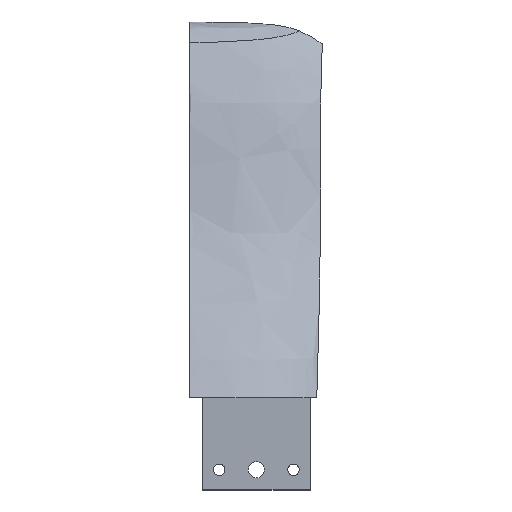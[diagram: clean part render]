
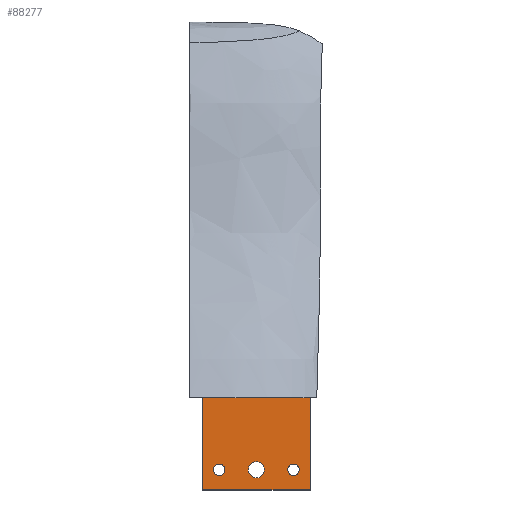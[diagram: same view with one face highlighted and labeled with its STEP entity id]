
A CAD part, top view. The second image highlights one B-rep face of the part: STEP entity #88277.
In plain terms, the highlighted planar face has unit normal (0, 0, 1).
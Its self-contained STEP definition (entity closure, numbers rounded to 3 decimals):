
#87328 = PLANE('',#87329);
#87329 = AXIS2_PLACEMENT_3D('',#87330,#87331,#87332);
#87330 = CARTESIAN_POINT('',(47.24,-59.4,19.01));
#87331 = DIRECTION('',(1.,0.,-0.));
#87332 = DIRECTION('',(0.,0.,1.));
#87667 = PLANE('',#87668);
#87668 = AXIS2_PLACEMENT_3D('',#87669,#87670,#87671);
#87669 = CARTESIAN_POINT('',(63.24,-59.4,19.01));
#87670 = DIRECTION('',(1.,0.,-0.));
#87671 = DIRECTION('',(0.,0.,1.));
#87876 = PLANE('',#87877);
#87877 = AXIS2_PLACEMENT_3D('',#87878,#87879,#87880);
#87878 = CARTESIAN_POINT('',(47.24,-59.4,19.01));
#87879 = DIRECTION('',(-0.,1.,0.));
#87880 = DIRECTION('',(0.,0.,1.));
#88096 = PLANE('',#88097);
#88097 = AXIS2_PLACEMENT_3D('',#88098,#88099,#88100);
#88098 = CARTESIAN_POINT('',(47.24,-73.4,19.));
#88099 = DIRECTION('',(-0.,1.,0.));
#88100 = DIRECTION('',(0.,0.,1.));
#88149 = CYLINDRICAL_SURFACE('',#88150,0.85);
#88150 = AXIS2_PLACEMENT_3D('',#88151,#88152,#88153);
#88151 = CARTESIAN_POINT('',(49.74,-70.4,18.));
#88152 = DIRECTION('',(0.,0.,1.));
#88153 = DIRECTION('',(1.,0.,-0.));
#88180 = CYLINDRICAL_SURFACE('',#88181,1.2);
#88181 = AXIS2_PLACEMENT_3D('',#88182,#88183,#88184);
#88182 = CARTESIAN_POINT('',(55.24,-70.4,18.));
#88183 = DIRECTION('',(0.,0.,1.));
#88184 = DIRECTION('',(1.,0.,-0.));
#88211 = CYLINDRICAL_SURFACE('',#88212,0.85);
#88212 = AXIS2_PLACEMENT_3D('',#88213,#88214,#88215);
#88213 = CARTESIAN_POINT('',(60.74,-70.4,18.));
#88214 = DIRECTION('',(0.,0.,1.));
#88215 = DIRECTION('',(1.,0.,-0.));
#88226 = EDGE_CURVE('',#88227,#88227,#88229,.T.);
#88227 = VERTEX_POINT('',#88228);
#88228 = CARTESIAN_POINT('',(61.59,-70.4,20.));
#88229 = SURFACE_CURVE('',#88230,(#88235,#88242),.PCURVE_S1.);
#88230 = CIRCLE('',#88231,0.85);
#88231 = AXIS2_PLACEMENT_3D('',#88232,#88233,#88234);
#88232 = CARTESIAN_POINT('',(60.74,-70.4,20.));
#88233 = DIRECTION('',(0.,0.,1.));
#88234 = DIRECTION('',(1.,0.,-0.));
#88235 = PCURVE('',#88211,#88236);
#88236 = DEFINITIONAL_REPRESENTATION('',(#88237),#88241);
#88237 = LINE('',#88238,#88239);
#88238 = CARTESIAN_POINT('',(0.,2.));
#88239 = VECTOR('',#88240,1.);
#88240 = DIRECTION('',(1.,0.));
#88241 = ( GEOMETRIC_REPRESENTATION_CONTEXT(2) 
PARAMETRIC_REPRESENTATION_CONTEXT() REPRESENTATION_CONTEXT('2D SPACE',''
  ) );
#88242 = PCURVE('',#88243,#88248);
#88243 = PLANE('',#88244);
#88244 = AXIS2_PLACEMENT_3D('',#88245,#88246,#88247);
#88245 = CARTESIAN_POINT('',(47.24,-73.4,20.));
#88246 = DIRECTION('',(0.,0.,1.));
#88247 = DIRECTION('',(1.,0.,-0.));
#88248 = DEFINITIONAL_REPRESENTATION('',(#88249),#88253);
#88249 = CIRCLE('',#88250,0.85);
#88250 = AXIS2_PLACEMENT_2D('',#88251,#88252);
#88251 = CARTESIAN_POINT('',(13.5,3.));
#88252 = DIRECTION('',(1.,0.));
#88253 = ( GEOMETRIC_REPRESENTATION_CONTEXT(2) 
PARAMETRIC_REPRESENTATION_CONTEXT() REPRESENTATION_CONTEXT('2D SPACE',''
  ) );
#88277 = ADVANCED_FACE('',(#88278,#88370,#88396,#88422),#88243,.T.);
#88278 = FACE_BOUND('',#88279,.T.);
#88279 = EDGE_LOOP('',(#88280,#88305,#88328,#88351));
#88280 = ORIENTED_EDGE('',*,*,#88281,.F.);
#88281 = EDGE_CURVE('',#88282,#88284,#88286,.T.);
#88282 = VERTEX_POINT('',#88283);
#88283 = CARTESIAN_POINT('',(47.24,-73.4,20.));
#88284 = VERTEX_POINT('',#88285);
#88285 = CARTESIAN_POINT('',(47.24,-59.4,20.));
#88286 = SURFACE_CURVE('',#88287,(#88291,#88298),.PCURVE_S1.);
#88287 = LINE('',#88288,#88289);
#88288 = CARTESIAN_POINT('',(47.24,-73.4,20.));
#88289 = VECTOR('',#88290,1.);
#88290 = DIRECTION('',(-0.,1.,0.));
#88291 = PCURVE('',#88243,#88292);
#88292 = DEFINITIONAL_REPRESENTATION('',(#88293),#88297);
#88293 = LINE('',#88294,#88295);
#88294 = CARTESIAN_POINT('',(0.,0.));
#88295 = VECTOR('',#88296,1.);
#88296 = DIRECTION('',(0.,1.));
#88297 = ( GEOMETRIC_REPRESENTATION_CONTEXT(2) 
PARAMETRIC_REPRESENTATION_CONTEXT() REPRESENTATION_CONTEXT('2D SPACE',''
  ) );
#88298 = PCURVE('',#87328,#88299);
#88299 = DEFINITIONAL_REPRESENTATION('',(#88300),#88304);
#88300 = LINE('',#88301,#88302);
#88301 = CARTESIAN_POINT('',(0.99,14.));
#88302 = VECTOR('',#88303,1.);
#88303 = DIRECTION('',(0.,-1.));
#88304 = ( GEOMETRIC_REPRESENTATION_CONTEXT(2) 
PARAMETRIC_REPRESENTATION_CONTEXT() REPRESENTATION_CONTEXT('2D SPACE',''
  ) );
#88305 = ORIENTED_EDGE('',*,*,#88306,.T.);
#88306 = EDGE_CURVE('',#88282,#88307,#88309,.T.);
#88307 = VERTEX_POINT('',#88308);
#88308 = CARTESIAN_POINT('',(63.24,-73.4,20.));
#88309 = SURFACE_CURVE('',#88310,(#88314,#88321),.PCURVE_S1.);
#88310 = LINE('',#88311,#88312);
#88311 = CARTESIAN_POINT('',(47.24,-73.4,20.));
#88312 = VECTOR('',#88313,1.);
#88313 = DIRECTION('',(1.,0.,-0.));
#88314 = PCURVE('',#88243,#88315);
#88315 = DEFINITIONAL_REPRESENTATION('',(#88316),#88320);
#88316 = LINE('',#88317,#88318);
#88317 = CARTESIAN_POINT('',(0.,0.));
#88318 = VECTOR('',#88319,1.);
#88319 = DIRECTION('',(1.,0.));
#88320 = ( GEOMETRIC_REPRESENTATION_CONTEXT(2) 
PARAMETRIC_REPRESENTATION_CONTEXT() REPRESENTATION_CONTEXT('2D SPACE',''
  ) );
#88321 = PCURVE('',#88096,#88322);
#88322 = DEFINITIONAL_REPRESENTATION('',(#88323),#88327);
#88323 = LINE('',#88324,#88325);
#88324 = CARTESIAN_POINT('',(1.,0.));
#88325 = VECTOR('',#88326,1.);
#88326 = DIRECTION('',(0.,1.));
#88327 = ( GEOMETRIC_REPRESENTATION_CONTEXT(2) 
PARAMETRIC_REPRESENTATION_CONTEXT() REPRESENTATION_CONTEXT('2D SPACE',''
  ) );
#88328 = ORIENTED_EDGE('',*,*,#88329,.T.);
#88329 = EDGE_CURVE('',#88307,#88330,#88332,.T.);
#88330 = VERTEX_POINT('',#88331);
#88331 = CARTESIAN_POINT('',(63.24,-59.4,20.));
#88332 = SURFACE_CURVE('',#88333,(#88337,#88344),.PCURVE_S1.);
#88333 = LINE('',#88334,#88335);
#88334 = CARTESIAN_POINT('',(63.24,-73.4,20.));
#88335 = VECTOR('',#88336,1.);
#88336 = DIRECTION('',(-0.,1.,0.));
#88337 = PCURVE('',#88243,#88338);
#88338 = DEFINITIONAL_REPRESENTATION('',(#88339),#88343);
#88339 = LINE('',#88340,#88341);
#88340 = CARTESIAN_POINT('',(16.,0.));
#88341 = VECTOR('',#88342,1.);
#88342 = DIRECTION('',(0.,1.));
#88343 = ( GEOMETRIC_REPRESENTATION_CONTEXT(2) 
PARAMETRIC_REPRESENTATION_CONTEXT() REPRESENTATION_CONTEXT('2D SPACE',''
  ) );
#88344 = PCURVE('',#87667,#88345);
#88345 = DEFINITIONAL_REPRESENTATION('',(#88346),#88350);
#88346 = LINE('',#88347,#88348);
#88347 = CARTESIAN_POINT('',(0.99,14.));
#88348 = VECTOR('',#88349,1.);
#88349 = DIRECTION('',(0.,-1.));
#88350 = ( GEOMETRIC_REPRESENTATION_CONTEXT(2) 
PARAMETRIC_REPRESENTATION_CONTEXT() REPRESENTATION_CONTEXT('2D SPACE',''
  ) );
#88351 = ORIENTED_EDGE('',*,*,#88352,.F.);
#88352 = EDGE_CURVE('',#88284,#88330,#88353,.T.);
#88353 = SURFACE_CURVE('',#88354,(#88358,#88364),.PCURVE_S1.);
#88354 = LINE('',#88355,#88356);
#88355 = CARTESIAN_POINT('',(47.24,-59.4,20.));
#88356 = VECTOR('',#88357,1.);
#88357 = DIRECTION('',(1.,0.,-0.));
#88358 = PCURVE('',#88243,#88359);
#88359 = DEFINITIONAL_REPRESENTATION('',(#88360),#88363);
#88360 = B_SPLINE_CURVE_WITH_KNOTS('',1,(#88361,#88362),.UNSPECIFIED.,
  .F.,.F.,(2,2),(0.,16.),.PIECEWISE_BEZIER_KNOTS.);
#88361 = CARTESIAN_POINT('',(0.,14.));
#88362 = CARTESIAN_POINT('',(16.,14.));
#88363 = ( GEOMETRIC_REPRESENTATION_CONTEXT(2) 
PARAMETRIC_REPRESENTATION_CONTEXT() REPRESENTATION_CONTEXT('2D SPACE',''
  ) );
#88364 = PCURVE('',#87876,#88365);
#88365 = DEFINITIONAL_REPRESENTATION('',(#88366),#88369);
#88366 = B_SPLINE_CURVE_WITH_KNOTS('',1,(#88367,#88368),.UNSPECIFIED.,
  .F.,.F.,(2,2),(0.,16.),.PIECEWISE_BEZIER_KNOTS.);
#88367 = CARTESIAN_POINT('',(0.99,0.));
#88368 = CARTESIAN_POINT('',(0.99,16.));
#88369 = ( GEOMETRIC_REPRESENTATION_CONTEXT(2) 
PARAMETRIC_REPRESENTATION_CONTEXT() REPRESENTATION_CONTEXT('2D SPACE',''
  ) );
#88370 = FACE_BOUND('',#88371,.T.);
#88371 = EDGE_LOOP('',(#88372));
#88372 = ORIENTED_EDGE('',*,*,#88373,.F.);
#88373 = EDGE_CURVE('',#88374,#88374,#88376,.T.);
#88374 = VERTEX_POINT('',#88375);
#88375 = CARTESIAN_POINT('',(50.59,-70.4,20.));
#88376 = SURFACE_CURVE('',#88377,(#88382,#88389),.PCURVE_S1.);
#88377 = CIRCLE('',#88378,0.85);
#88378 = AXIS2_PLACEMENT_3D('',#88379,#88380,#88381);
#88379 = CARTESIAN_POINT('',(49.74,-70.4,20.));
#88380 = DIRECTION('',(0.,0.,1.));
#88381 = DIRECTION('',(1.,0.,-0.));
#88382 = PCURVE('',#88243,#88383);
#88383 = DEFINITIONAL_REPRESENTATION('',(#88384),#88388);
#88384 = CIRCLE('',#88385,0.85);
#88385 = AXIS2_PLACEMENT_2D('',#88386,#88387);
#88386 = CARTESIAN_POINT('',(2.5,3.));
#88387 = DIRECTION('',(1.,0.));
#88388 = ( GEOMETRIC_REPRESENTATION_CONTEXT(2) 
PARAMETRIC_REPRESENTATION_CONTEXT() REPRESENTATION_CONTEXT('2D SPACE',''
  ) );
#88389 = PCURVE('',#88149,#88390);
#88390 = DEFINITIONAL_REPRESENTATION('',(#88391),#88395);
#88391 = LINE('',#88392,#88393);
#88392 = CARTESIAN_POINT('',(0.,2.));
#88393 = VECTOR('',#88394,1.);
#88394 = DIRECTION('',(1.,0.));
#88395 = ( GEOMETRIC_REPRESENTATION_CONTEXT(2) 
PARAMETRIC_REPRESENTATION_CONTEXT() REPRESENTATION_CONTEXT('2D SPACE',''
  ) );
#88396 = FACE_BOUND('',#88397,.T.);
#88397 = EDGE_LOOP('',(#88398));
#88398 = ORIENTED_EDGE('',*,*,#88399,.F.);
#88399 = EDGE_CURVE('',#88400,#88400,#88402,.T.);
#88400 = VERTEX_POINT('',#88401);
#88401 = CARTESIAN_POINT('',(56.44,-70.4,20.));
#88402 = SURFACE_CURVE('',#88403,(#88408,#88415),.PCURVE_S1.);
#88403 = CIRCLE('',#88404,1.2);
#88404 = AXIS2_PLACEMENT_3D('',#88405,#88406,#88407);
#88405 = CARTESIAN_POINT('',(55.24,-70.4,20.));
#88406 = DIRECTION('',(0.,0.,1.));
#88407 = DIRECTION('',(1.,0.,-0.));
#88408 = PCURVE('',#88243,#88409);
#88409 = DEFINITIONAL_REPRESENTATION('',(#88410),#88414);
#88410 = CIRCLE('',#88411,1.2);
#88411 = AXIS2_PLACEMENT_2D('',#88412,#88413);
#88412 = CARTESIAN_POINT('',(8.,3.));
#88413 = DIRECTION('',(1.,0.));
#88414 = ( GEOMETRIC_REPRESENTATION_CONTEXT(2) 
PARAMETRIC_REPRESENTATION_CONTEXT() REPRESENTATION_CONTEXT('2D SPACE',''
  ) );
#88415 = PCURVE('',#88180,#88416);
#88416 = DEFINITIONAL_REPRESENTATION('',(#88417),#88421);
#88417 = LINE('',#88418,#88419);
#88418 = CARTESIAN_POINT('',(0.,2.));
#88419 = VECTOR('',#88420,1.);
#88420 = DIRECTION('',(1.,0.));
#88421 = ( GEOMETRIC_REPRESENTATION_CONTEXT(2) 
PARAMETRIC_REPRESENTATION_CONTEXT() REPRESENTATION_CONTEXT('2D SPACE',''
  ) );
#88422 = FACE_BOUND('',#88423,.T.);
#88423 = EDGE_LOOP('',(#88424));
#88424 = ORIENTED_EDGE('',*,*,#88226,.F.);
